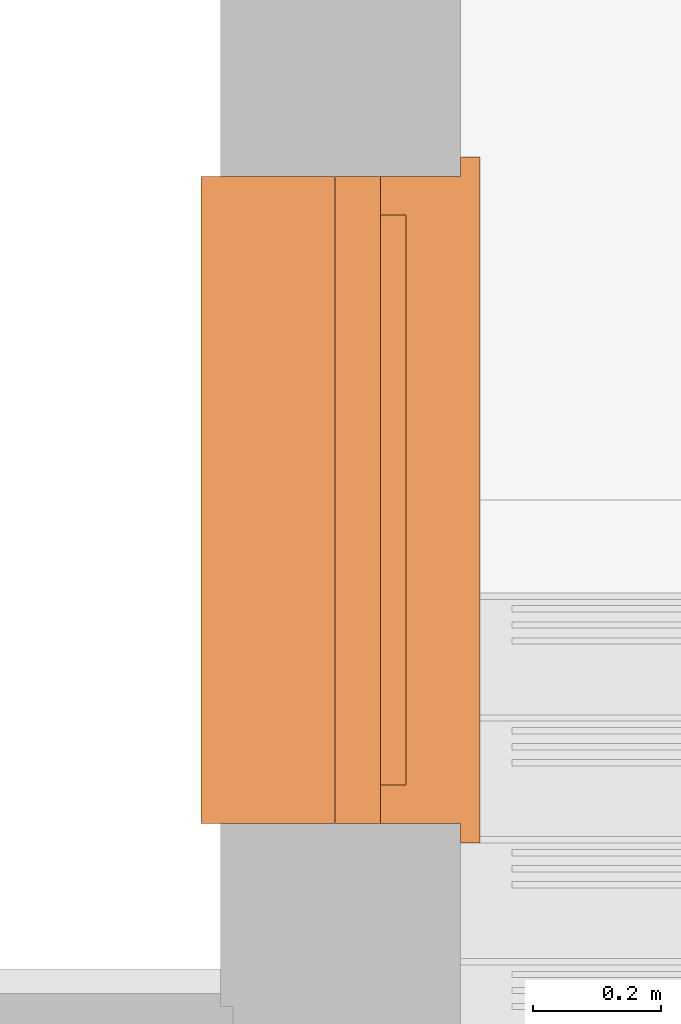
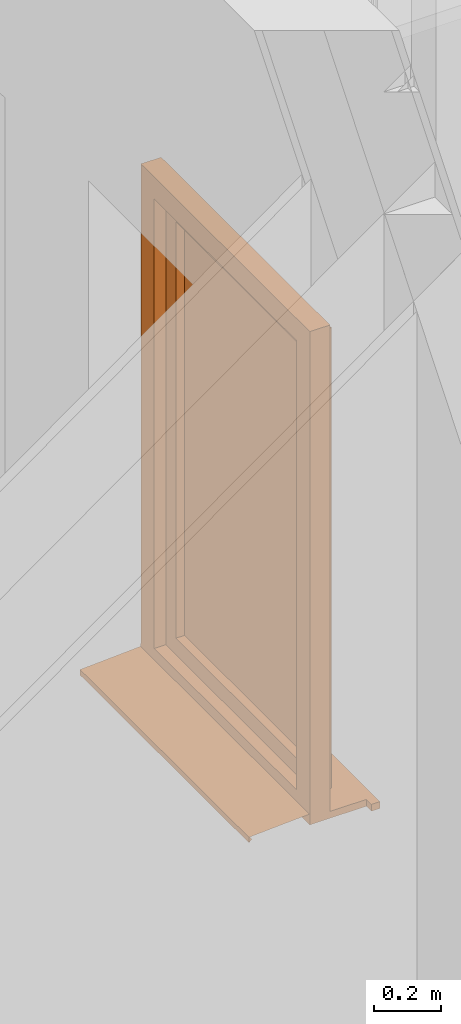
# One storey, part 22 of 28: 1 proxy.
"""IFC4 building model written with IfcOpenShell, lengths in metres."""

from ifc_helpers import new_model, entity, si_unit, converted_unit, derived_unit, direction, frame, origin_with_axes, place, context, subcontext, project, spatial, triangles, type_object, element, save


model = new_model("IFC4")

# Units and contexts
model_context = context("Model", 3, precision=1e-05, world=origin_with_axes(), true_north=direction((-0.526213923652, 0.850352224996)))
body_context = subcontext(model_context, "Body", "Model", "MODEL_VIEW")
ifc_project = project(units=[si_unit("LENGTHUNIT", "METRE"), si_unit("AREAUNIT", "SQUARE_METRE"), si_unit("VOLUMEUNIT", "CUBIC_METRE"), converted_unit("PLANEANGLEUNIT", "DEGREE", entity("IfcPlaneAngleMeasure", 0.0174532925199), si_unit("PLANEANGLEUNIT", "RADIAN"), dimensions=[0, 0, 0, 0, 0, 0, 0]), si_unit("SOLIDANGLEUNIT", "STERADIAN"), converted_unit("TIMEUNIT", "Year", entity("IfcTimeMeasure", 31556926.0), si_unit("TIMEUNIT", "SECOND"), dimensions=[0, 0, 1, 0, 0, 0, 0]), si_unit("MASSUNIT", "GRAM", prefix="KILO"), si_unit("THERMODYNAMICTEMPERATUREUNIT", "DEGREE_CELSIUS"), si_unit("LUMINOUSINTENSITYUNIT", "LUMEN"), si_unit("ENERGYUNIT", "JOULE", prefix="MEGA"), derived_unit("THERMALCONDUCTANCEUNIT", [(si_unit("POWERUNIT", "WATT"), 1), (si_unit("LENGTHUNIT", "METRE"), -1), (si_unit("THERMODYNAMICTEMPERATUREUNIT", "KELVIN"), -1)]), derived_unit("SPECIFICHEATCAPACITYUNIT", [(si_unit("ENERGYUNIT", "JOULE"), 1), (si_unit("MASSUNIT", "GRAM", prefix="KILO"), -1), (si_unit("THERMODYNAMICTEMPERATUREUNIT", "KELVIN"), -1)]), derived_unit("MASSDENSITYUNIT", [(si_unit("MASSUNIT", "GRAM", prefix="KILO"), 1), (si_unit("VOLUMEUNIT", "CUBIC_METRE"), -1)])], contexts=[model_context])

# Site, building, storey
site_placement = place(None, origin_with_axes())
site = spatial("IfcSite", under=ifc_project, at=site_placement, Name="Gelände", CompositionType="ELEMENT")
building_placement = place(site_placement, origin_with_axes())
building = spatial("IfcBuilding", under=site, at=building_placement, Name="Haus vom Nikolaus", CompositionType="ELEMENT")
storey_placement = place(building_placement, origin_with_axes())
storey = spatial("IfcBuildingStorey", under=building, at=storey_placement, Name="EG", CompositionType="ELEMENT", Elevation=0.0)

# Proxy
building_element_proxy_type = type_object("IfcBuildingElementProxyType", Name="1-Flügelfenster 22", PredefinedType="NOTDEFINED")
proxy_placement = place(storey_placement, frame((0.259997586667, 10.7898320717, 0.8), z_axis=(0.0, 0.0, 1.0), x_axis=(0.0, -1.0, 0.0)))
element("IfcBuildingElementProxy", 1, at=proxy_placement, inside=storey, type_object=building_element_proxy_type, Name="Fenster-006", PredefinedType="NOTDEFINED", context=body_context, shape_type="Tessellation", body=[
    triangles([(0.0, -0.196, 0.04), (1.01, -0.196, 0.05), (0.0, -0.196, 0.05), (1.01, -0.196, 0.04), (0.0, -0.405, 0.0283333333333), (1.01, -0.405, 0.0283333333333), (0.0, -0.405, 0.00833333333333), (1.01, -0.405, 0.00833333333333), (0.0, -0.395, 0.0183333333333), (1.01, -0.395, 0.0183333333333)], [[1, 2, 3], [1, 4, 2], [5, 4, 1], [5, 6, 4], [7, 6, 5], [7, 8, 6], [9, 8, 7], [9, 10, 8]], closed=False),
    triangles([(0.0, 0.0, 0.025), (0.0, -0.125, 0.0), (0.0, -0.125, 0.025), (0.0, 0.0, 0.0), (1.01, -0.125, 0.0), (1.01, -0.125, 0.025), (-0.03, 0.03, 0.025), (1.01, 0.0, 0.025), (1.04, 0.03, 0.025), (1.04, 0.0, 0.025), (-0.03, 0.0, 0.025), (-0.03, 0.0, 0.0), (-0.03, 0.03, 0.0), (1.01, 0.0, 0.0), (1.04, 0.03, 0.0), (1.04, 0.0, 0.0)], [[1, 2, 3], [1, 4, 2], [3, 5, 6], [3, 2, 5], [7, 8, 9], [8, 3, 6], [9, 8, 10], [11, 1, 7], [1, 3, 8], [7, 1, 8], [11, 4, 1], [11, 12, 4], [12, 13, 4], [13, 14, 4], [14, 13, 15], [14, 5, 2], [14, 15, 16], [4, 14, 2], [6, 14, 8], [6, 5, 14], [8, 16, 10], [8, 14, 16], [10, 15, 9], [10, 16, 15], [9, 13, 7], [9, 15, 13], [7, 12, 11], [7, 13, 12]], closed=True),
    triangles([(0.93, -0.125, 0.08), (1.01, -0.195, 0.0), (0.93, -0.195, 0.08), (1.01, -0.125, 0.0), (0.93, -0.195, 1.72), (1.01, -0.195, 1.8), (0.93, -0.125, 1.72), (1.01, -0.125, 1.8)], [[1, 2, 3], [1, 4, 2], [5, 2, 6], [5, 3, 2], [7, 3, 5], [7, 1, 3], [8, 4, 7], [7, 4, 1], [4, 6, 2], [4, 8, 6], [7, 6, 8], [6, 7, 5]], closed=True),
    triangles([(0.0, -0.125, 1.8), (0.0, -0.195, 0.0), (0.0, -0.195, 1.8), (0.0, -0.125, 0.0), (0.08, -0.195, 1.72), (0.08, -0.195, 0.08), (0.08, -0.125, 1.72), (0.08, -0.125, 0.08)], [[1, 2, 3], [1, 4, 2], [3, 2, 5], [5, 2, 6], [1, 5, 7], [5, 1, 3], [7, 4, 1], [7, 8, 4], [8, 2, 4], [2, 8, 6], [8, 5, 6], [8, 7, 5]], closed=True),
    triangles([(1.01, -0.125, 0.0), (0.0, -0.195, 0.0), (0.0, -0.125, 0.0), (1.01, -0.195, 0.0), (0.505, -0.195, 0.08), (0.93, -0.195, 0.08), (0.08, -0.195, 0.08), (0.08, -0.125, 0.08), (0.505, -0.125, 0.08), (0.93, -0.125, 0.08)], [[1, 2, 3], [2, 1, 4], [2, 4, 5], [5, 4, 6], [2, 5, 7], [8, 2, 7], [8, 3, 2], [9, 3, 8], [10, 1, 9], [3, 9, 1], [10, 4, 1], [4, 10, 6], [10, 5, 6], [10, 9, 5], [9, 7, 5], [9, 8, 7]], closed=True),
    triangles([(0.93, -0.125, 1.72), (1.01, -0.195, 1.8), (0.93, -0.195, 1.72), (1.01, -0.125, 1.8), (0.505, -0.195, 1.72), (0.0, -0.195, 1.8), (0.08, -0.195, 1.72), (0.505, -0.125, 1.72), (0.0, -0.125, 1.8), (0.08, -0.125, 1.72)], [[1, 2, 3], [1, 4, 2], [5, 6, 7], [3, 2, 5], [6, 5, 2], [8, 3, 5], [8, 1, 3], [9, 4, 8], [8, 4, 1], [9, 8, 10], [4, 6, 2], [4, 9, 6], [9, 7, 6], [9, 10, 7], [10, 5, 7], [10, 8, 5]], closed=True),
    triangles([(0.87, -0.085, 0.14), (0.95, -0.125, 0.06), (0.87, -0.125, 0.14), (0.95, -0.085, 0.06), (0.87, -0.125, 1.66), (0.95, -0.125, 1.74), (0.87, -0.085, 1.66), (0.95, -0.085, 1.74)], [[1, 2, 3], [1, 4, 2], [5, 2, 6], [5, 3, 2], [7, 3, 5], [7, 1, 3], [8, 4, 7], [7, 4, 1], [4, 6, 2], [4, 8, 6], [8, 5, 6], [8, 7, 5]], closed=True),
    triangles([(0.14, -0.085, 0.14), (0.06, -0.125, 0.06), (0.06, -0.085, 0.06), (0.14, -0.125, 0.14), (0.06, -0.125, 1.74), (0.06, -0.085, 1.74), (0.14, -0.085, 1.66), (0.14, -0.125, 1.66)], [[1, 2, 3], [1, 4, 2], [3, 5, 6], [3, 2, 5], [7, 3, 6], [7, 1, 3], [7, 4, 1], [7, 8, 4], [5, 2, 8], [8, 2, 4], [5, 7, 6], [7, 5, 8]], closed=True),
    triangles([(0.06, -0.085, 0.06), (0.95, -0.125, 0.06), (0.06, -0.125, 0.06), (0.95, -0.085, 0.06), (0.14, -0.125, 0.14), (0.87, -0.125, 0.14), (0.14, -0.085, 0.14), (0.87, -0.085, 0.14)], [[1, 2, 3], [1, 4, 2], [3, 2, 5], [5, 2, 6], [7, 3, 5], [7, 1, 3], [8, 1, 7], [1, 8, 4], [4, 6, 2], [4, 8, 6], [8, 5, 6], [8, 7, 5]], closed=True),
    triangles([(0.06, -0.125, 1.74), (0.95, -0.085, 1.74), (0.06, -0.085, 1.74), (0.95, -0.125, 1.74), (0.87, -0.125, 1.66), (0.87, -0.085, 1.66), (0.14, -0.085, 1.66), (0.14, -0.125, 1.66)], [[1, 2, 3], [2, 1, 4], [2, 5, 6], [2, 4, 5], [3, 2, 7], [7, 2, 6], [7, 1, 3], [7, 8, 1], [8, 4, 1], [8, 5, 4], [6, 8, 7], [6, 5, 8]], closed=True),
    triangles([(0.93, -0.125, 0.08), (0.87, -0.155, 0.14), (0.87, -0.125, 0.14), (0.93, -0.155, 0.08), (0.87, -0.155, 1.66), (0.93, -0.155, 1.72), (0.87, -0.125, 1.66), (0.93, -0.125, 1.72)], [[1, 2, 3], [2, 1, 4], [5, 4, 6], [5, 2, 4], [7, 2, 5], [7, 3, 2], [8, 1, 7], [7, 1, 3], [1, 6, 4], [1, 8, 6], [8, 5, 6], [8, 7, 5]], closed=True),
    triangles([(0.14, -0.125, 0.14), (0.08, -0.155, 0.08), (0.08, -0.125, 0.08), (0.14, -0.155, 0.14), (0.08, -0.155, 1.72), (0.08, -0.125, 1.72), (0.14, -0.125, 1.66), (0.14, -0.155, 1.66)], [[1, 2, 3], [1, 4, 2], [3, 5, 6], [3, 2, 5], [7, 3, 6], [7, 1, 3], [7, 4, 1], [7, 8, 4], [4, 5, 2], [5, 4, 8], [6, 8, 7], [6, 5, 8]], closed=True),
    triangles([(0.08, -0.125, 0.08), (0.93, -0.155, 0.08), (0.08, -0.155, 0.08), (0.93, -0.125, 0.08), (0.87, -0.155, 0.14), (0.14, -0.155, 0.14), (0.14, -0.125, 0.14), (0.87, -0.125, 0.14)], [[1, 2, 3], [1, 4, 2], [5, 3, 2], [3, 5, 6], [7, 3, 6], [7, 1, 3], [7, 4, 1], [7, 8, 4], [4, 5, 2], [4, 8, 5], [8, 6, 5], [8, 7, 6]], closed=True),
    triangles([(0.08, -0.155, 1.72), (0.93, -0.125, 1.72), (0.08, -0.125, 1.72), (0.93, -0.155, 1.72), (0.87, -0.155, 1.66), (0.87, -0.125, 1.66), (0.14, -0.125, 1.66), (0.14, -0.155, 1.66)], [[1, 2, 3], [2, 1, 4], [2, 5, 6], [2, 4, 5], [6, 3, 2], [3, 6, 7], [7, 1, 3], [7, 8, 1], [8, 4, 1], [8, 5, 4], [6, 8, 7], [6, 5, 8]], closed=True),
    triangles([(0.14, -0.115, 0.14), (0.87, -0.125, 0.14), (0.14, -0.125, 0.14), (0.87, -0.115, 0.14), (0.14, -0.125, 1.66), (0.87, -0.125, 1.66), (0.14, -0.115, 1.66), (0.87, -0.115, 1.66)], [[1, 2, 3], [1, 4, 2], [5, 2, 6], [5, 3, 2], [7, 3, 5], [7, 1, 3], [7, 4, 1], [7, 8, 4], [4, 6, 2], [4, 8, 6], [8, 5, 6], [8, 7, 5]], closed=True),
])

save(model, "model.ifc")
